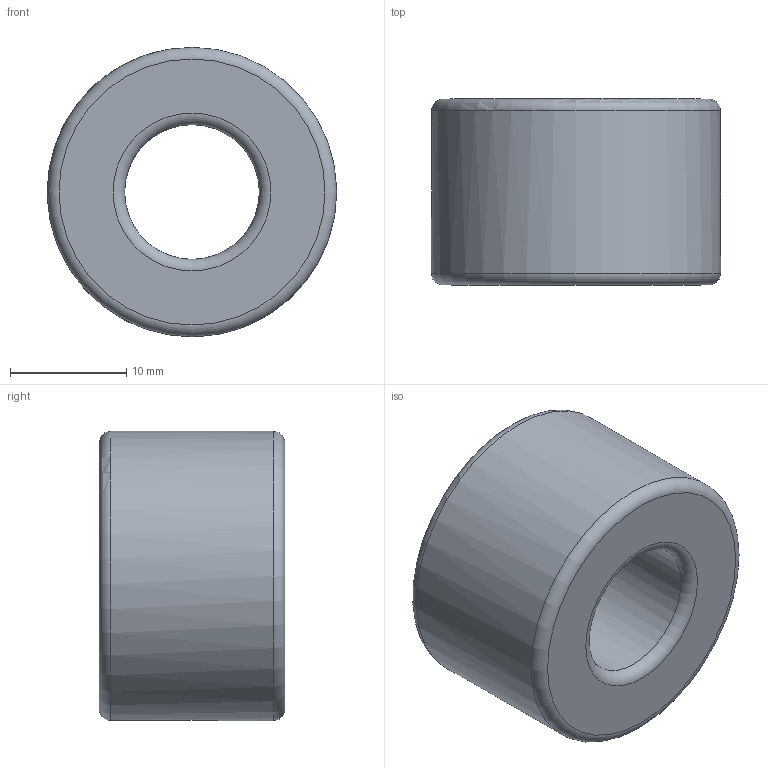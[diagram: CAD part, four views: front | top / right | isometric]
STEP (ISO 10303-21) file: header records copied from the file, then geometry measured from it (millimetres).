
FILE_DESCRIPTION(/* description */ (''),/* implementation_level */ '2;1');
FILE_NAME(/* name */ 'G:\KB-FTKon\CAD\Inventor\Kundenmodelle\Kerne\V323\V323_Shrinkwrap_1.stp',/* time_stamp */ '2020-01-13T13:59:17+01:00',/* author */ ('de881284'),/* organization */ (''),/* preprocessor_version */ 'ST-DEVELOPER v18',/* originating_system */ 'Autodesk Inventor 2020',/* authorisation */ '');
FILE_SCHEMA (('AUTOMOTIVE_DESIGN { 1 0 10303 214 3 1 1 }'));
Length unit declared in the file: millimetre
Products named in the file (1): V323_Shrinkwrap_1
Bounding box: 24.9 x 16 x 24.9 mm (x, y, z)
Volume: 6051.1 mm3; surface area: 2498.8 mm2
Topology: 1 solids, 1 shells, 8 faces, 24 edges, 18 vertices
Faces by surface type: torus 4, cylinder 2, plane 2
Full cylindrical faces by diameter (mm): 11.6 x1, 24.9 x1
Entity records: 369 total; most frequent: DIRECTION 64, CARTESIAN_POINT 51, ORIENTED_EDGE 48, AXIS2_PLACEMENT_3D 31, EDGE_CURVE 24, CIRCLE 22, VERTEX_POINT 18, EDGE_LOOP 10
